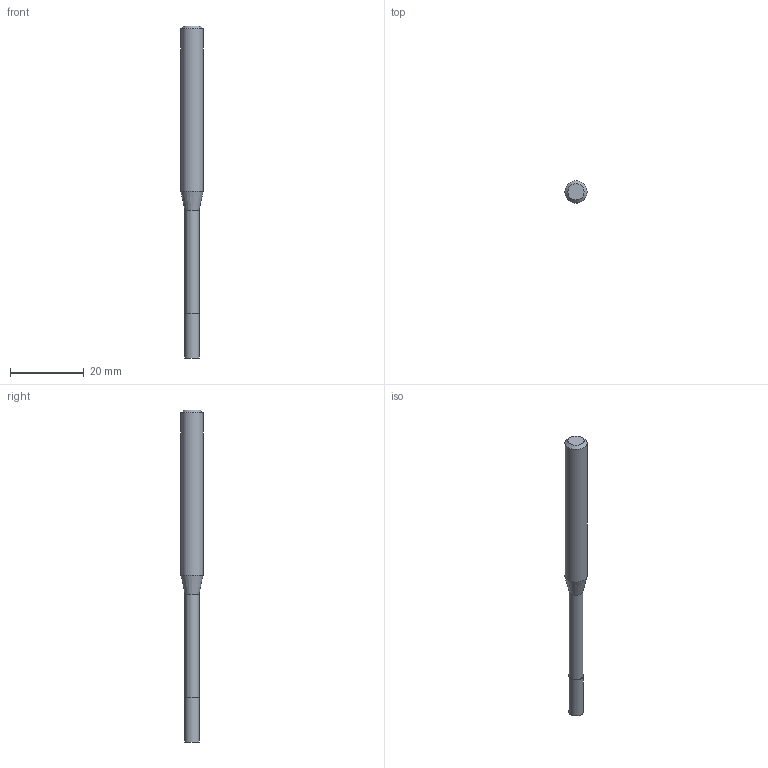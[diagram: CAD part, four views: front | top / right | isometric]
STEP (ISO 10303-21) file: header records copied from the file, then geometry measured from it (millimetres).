
FILE_DESCRIPTION((''),'2;1');
FILE_NAME('C:\Users\nsx150\Desktop\RSE230_20210427\01-00644-04040 RSE230 D4X12X40.step','2021-05-07T14:54:14',(''),(''),'STEP Write','Mastercam 2021 ... CNC Software, Inc.','');
FILE_SCHEMA(('AUTOMOTIVE_DESIGN'));
Length unit declared in the file: millimetre
Products named in the file (1): None
Bounding box: 6 x 6 x 90 mm (x, y, z)
Volume: 1829.5 mm3; surface area: 1466.5 mm2
Topology: 2 solids, 2 shells, 9 faces, 12 edges, 7 vertices
Faces by surface type: plane 4, cylinder 3, cone 2
Full cylindrical faces by diameter (mm): 3.8 x1, 4 x1, 6 x1
Entity records: 211 total; most frequent: DIRECTION 36, CARTESIAN_POINT 25, AXIS2_PLACEMENT_3D 18, ORIENTED_EDGE 14, EDGE_LOOP 14, STYLED_ITEM 12, ADVANCED_FACE 9, FACE_BOUND 8
